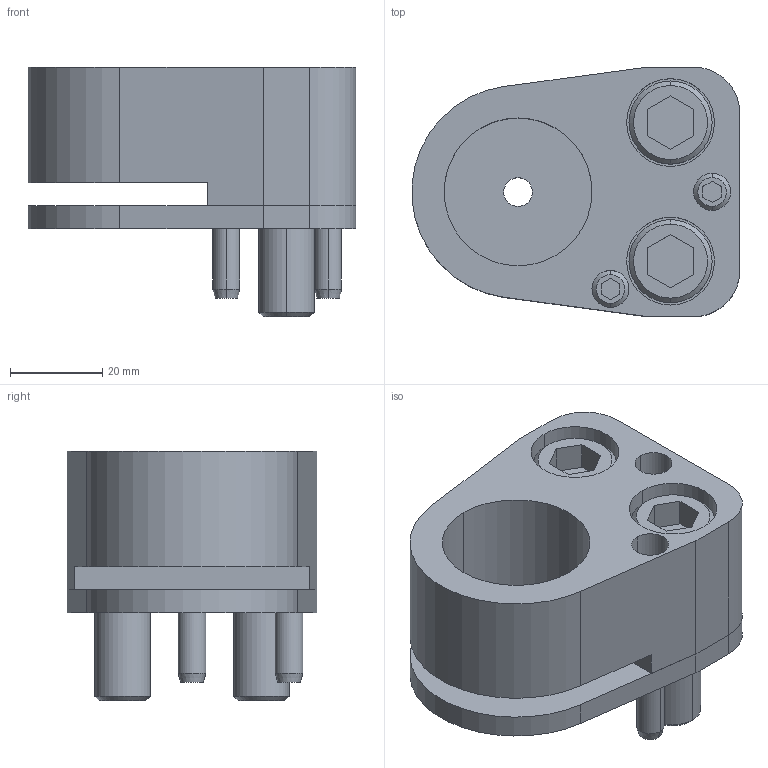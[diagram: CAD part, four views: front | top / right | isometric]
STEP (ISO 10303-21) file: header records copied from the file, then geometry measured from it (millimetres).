
FILE_DESCRIPTION(/* description */ (''),/* implementation_level */ '2;1');
FILE_NAME(/* name */ '3d_dp-fp32_02831_r00.stp',/* time_stamp */ '2011-01-10T14:15:55+09:00',/* author */ ('MISUMI'),/* organization */ (''),/* preprocessor_version */ 'ST-DEVELOPER v11',/* originating_system */ 'UGS - NX 5.0',/* authorisation */ '');
FILE_SCHEMA (('CONFIG_CONTROL_DESIGN'));
Length unit declared in the file: millimetre
Products named in the file (1): 3d_dp-fp32_02831_r00
Bounding box: 70.92 x 54 x 54 mm (x, y, z)
Volume: 85921.6 mm3; surface area: 32602.2 mm2
Topology: 8 solids, 8 shells, 154 faces, 350 edges, 225 vertices
Faces by surface type: plane 68, cylinder 60, cone 26
Entity records: 4494 total; most frequent: DIRECTION 802, CARTESIAN_POINT 781, ORIENTED_EDGE 700, EDGE_CURVE 350, AXIS2_PLACEMENT_3D 302, VERTEX_POINT 225, LINE 198, VECTOR 198
